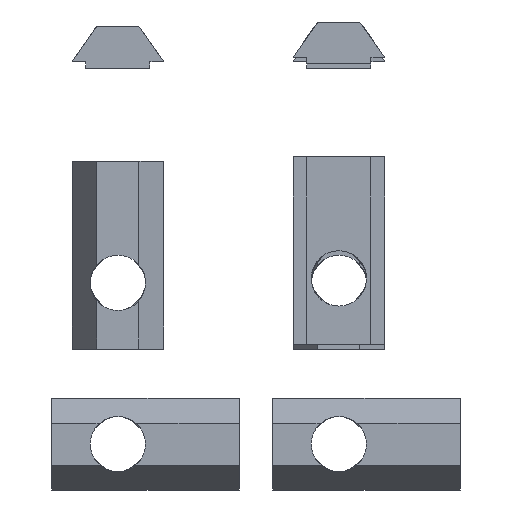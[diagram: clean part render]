
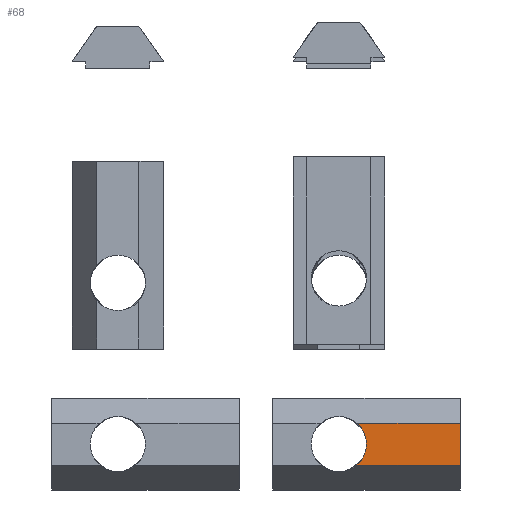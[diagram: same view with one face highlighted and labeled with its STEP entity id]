
A CAD part, front view. The second image highlights one B-rep face of the part: STEP entity #68.
In plain terms, the highlighted planar face has unit normal (0, -1, 0) as drawn and (-1, 0, 0) by its records, which use the part's own axes.
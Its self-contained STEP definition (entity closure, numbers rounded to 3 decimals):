
#68=ADVANCED_FACE('',(#81),#520,.T.);
#81=FACE_OUTER_BOUND('',#95,.T.);
#95=EDGE_LOOP('',(#158,#159,#160,#161,#162));
#158=ORIENTED_EDGE('',*,*,#389,.F.);
#159=ORIENTED_EDGE('',*,*,#362,.F.);
#160=ORIENTED_EDGE('',*,*,#388,.F.);
#161=ORIENTED_EDGE('',*,*,#368,.F.);
#162=ORIENTED_EDGE('',*,*,#392,.T.);
#173=(
BOUNDED_CURVE()
B_SPLINE_CURVE(2,(#1019,#1020,#1021),.UNSPECIFIED.,.F.,.F.)
B_SPLINE_CURVE_WITH_KNOTS((3,3),(-2.162,0.),.UNSPECIFIED.)
CURVE()
GEOMETRIC_REPRESENTATION_ITEM()
RATIONAL_B_SPLINE_CURVE((1.,0.907,1.))
REPRESENTATION_ITEM('')
);
#176=(
BOUNDED_CURVE()
B_SPLINE_CURVE(2,(#1047,#1048,#1049),.UNSPECIFIED.,.F.,.F.)
B_SPLINE_CURVE_WITH_KNOTS((3,3),(13.546,15.708),
 .UNSPECIFIED.)
CURVE()
GEOMETRIC_REPRESENTATION_ITEM()
RATIONAL_B_SPLINE_CURVE((1.,0.907,1.))
REPRESENTATION_ITEM('')
);
#182=PCURVE('',#519,#254);
#189=PCURVE('',#521,#261);
#222=PCURVE('',#527,#294);
#234=PCURVE('',#517,#306);
#238=PCURVE('',#520,#310);
#239=PCURVE('',#520,#311);
#240=PCURVE('',#520,#312);
#241=PCURVE('',#520,#313);
#242=PCURVE('',#520,#314);
#246=PCURVE('',#518,#318);
#254=DEFINITIONAL_REPRESENTATION('',(#404),#1095);
#261=DEFINITIONAL_REPRESENTATION('',(#415),#1095);
#294=DEFINITIONAL_REPRESENTATION('',(#466),#1095);
#306=DEFINITIONAL_REPRESENTATION('',(#478),#1095);
#310=DEFINITIONAL_REPRESENTATION('',(#482),#1095);
#311=DEFINITIONAL_REPRESENTATION('',(#483),#1095);
#312=DEFINITIONAL_REPRESENTATION('',(#484),#1095);
#313=DEFINITIONAL_REPRESENTATION('',(#485),#1095);
#314=DEFINITIONAL_REPRESENTATION('',(#486),#1095);
#318=DEFINITIONAL_REPRESENTATION('',(#490),#1095);
#326=SURFACE_CURVE('',#403,(#182,#239),.PCURVE_S1.);
#332=SURFACE_CURVE('',#414,(#189,#241),.PCURVE_S1.);
#352=SURFACE_CURVE('',#465,(#222,#240),.PCURVE_S1.);
#353=SURFACE_CURVE('',#173,(#234,#238),.PCURVE_S1.);
#356=SURFACE_CURVE('',#176,(#242,#246),.PCURVE_S1.);
#362=EDGE_CURVE('',#494,#509,#326,.T.);
#368=EDGE_CURVE('',#513,#497,#332,.T.);
#388=EDGE_CURVE('',#497,#494,#352,.T.);
#389=EDGE_CURVE('',#509,#511,#353,.T.);
#392=EDGE_CURVE('',#513,#511,#356,.T.);
#403=B_SPLINE_CURVE_WITH_KNOTS('',1,(#750,#751),.UNSPECIFIED.,.F.,.F.,(2,
2),(0.,9.386),.UNSPECIFIED.);
#404=B_SPLINE_CURVE_WITH_KNOTS('',1,(#752,#753),.UNSPECIFIED.,.F.,.F.,(2,
2),(0.,9.386),.UNSPECIFIED.);
#414=B_SPLINE_CURVE_WITH_KNOTS('',1,(#818,#819),.UNSPECIFIED.,.F.,.F.,(2,
2),(-9.386,0.),.UNSPECIFIED.);
#415=B_SPLINE_CURVE_WITH_KNOTS('',1,(#820,#821),.UNSPECIFIED.,.F.,.F.,(2,
2),(-9.386,0.),.UNSPECIFIED.);
#465=B_SPLINE_CURVE_WITH_KNOTS('',1,(#976,#977),.UNSPECIFIED.,.F.,.F.,(2,
2),(-3.819,0.),.UNSPECIFIED.);
#466=B_SPLINE_CURVE_WITH_KNOTS('',1,(#978,#979),.UNSPECIFIED.,.F.,.F.,(2,
2),(-3.819,0.),.UNSPECIFIED.);
#478=B_SPLINE_CURVE_WITH_KNOTS('',1,(#1022,#1023),.UNSPECIFIED.,.F.,.F.,
(2,2),(-2.162,0.),.UNSPECIFIED.);
#482=B_SPLINE_CURVE_WITH_KNOTS('',3,(#1034,#1035,#1036,#1037,#1038,#1039,
#1040),.UNSPECIFIED.,.F.,.F.,(4,3,4),(-2.162,-1.201,
0.),.UNSPECIFIED.);
#483=B_SPLINE_CURVE_WITH_KNOTS('',1,(#1041,#1042),.UNSPECIFIED.,.F.,.F.,
(2,2),(0.,9.386),.UNSPECIFIED.);
#484=B_SPLINE_CURVE_WITH_KNOTS('',1,(#1043,#1044),.UNSPECIFIED.,.F.,.F.,
(2,2),(-3.819,0.),.UNSPECIFIED.);
#485=B_SPLINE_CURVE_WITH_KNOTS('',1,(#1045,#1046),.UNSPECIFIED.,.F.,.F.,
(2,2),(-9.386,0.),.UNSPECIFIED.);
#486=B_SPLINE_CURVE_WITH_KNOTS('',3,(#1050,#1051,#1052,#1053,#1054,#1055,
#1056),.UNSPECIFIED.,.F.,.F.,(4,3,4),(13.546,14.507,
15.708),.UNSPECIFIED.);
#490=B_SPLINE_CURVE_WITH_KNOTS('',1,(#1063,#1064),.UNSPECIFIED.,.F.,.F.,
(2,2),(13.546,15.708),.UNSPECIFIED.);
#494=VERTEX_POINT('',#677);
#497=VERTEX_POINT('',#680);
#509=VERTEX_POINT('',#692);
#511=VERTEX_POINT('',#694);
#513=VERTEX_POINT('',#696);
#517=(
BOUNDED_SURFACE()
B_SPLINE_SURFACE(1,2,((#638,#639,#640,#641,#642,#643,#644,#645,#646),(#647,
#648,#649,#650,#651,#652,#653,#654,#655)),.UNSPECIFIED.,.F.,.F.,.F.)
B_SPLINE_SURFACE_WITH_KNOTS((2,2),(3,2,2,2,3),(0.,17.),(0.,3.927,
7.854,11.781,15.708),.UNSPECIFIED.)
GEOMETRIC_REPRESENTATION_ITEM()
RATIONAL_B_SPLINE_SURFACE(((1.,0.707,1.,0.707,1.,
0.707,1.,0.707,1.),(1.,0.707,1.,0.707,
1.,0.707,1.,0.707,1.)))
REPRESENTATION_ITEM('')
SURFACE()
);
#518=(
BOUNDED_SURFACE()
B_SPLINE_SURFACE(1,2,((#656,#657,#658,#659,#660,#661,#662,#663,#664),(#665,
#666,#667,#668,#669,#670,#671,#672,#673)),.UNSPECIFIED.,.F.,.F.,.F.)
B_SPLINE_SURFACE_WITH_KNOTS((2,2),(3,2,2,2,3),(0.,17.),(0.,3.927,
7.854,11.781,15.708),.UNSPECIFIED.)
GEOMETRIC_REPRESENTATION_ITEM()
RATIONAL_B_SPLINE_SURFACE(((1.,0.707,1.,0.707,1.,
0.707,1.,0.707,1.),(1.,0.707,1.,0.707,
1.,0.707,1.,0.707,1.)))
REPRESENTATION_ITEM('')
SURFACE()
);
#519=PLANE('',#577);
#520=PLANE('',#578);
#521=PLANE('',#579);
#527=PLANE('',#585);
#577=AXIS2_PLACEMENT_3D('',#630,#600,$);
#578=AXIS2_PLACEMENT_3D('',#631,#601,$);
#579=AXIS2_PLACEMENT_3D('',#632,#602,$);
#585=AXIS2_PLACEMENT_3D('',#674,#608,$);
#600=DIRECTION('',(-0.574,0.,-0.819));
#601=DIRECTION('',(-1.,0.,0.));
#602=DIRECTION('',(-0.574,0.,0.819));
#608=DIRECTION('',(0.,-1.,0.));
#630=CARTESIAN_POINT('',(-0.6,-11.,-4.15));
#631=CARTESIAN_POINT('',(-3.8,-11.,-1.909));
#632=CARTESIAN_POINT('',(-3.8,-11.,1.909));
#638=CARTESIAN_POINT('',(-9.6,-2.5,0.));
#639=CARTESIAN_POINT('',(-9.6,-2.5,-2.5));
#640=CARTESIAN_POINT('',(-9.6,0.,-2.5));
#641=CARTESIAN_POINT('',(-9.6,2.5,-2.5));
#642=CARTESIAN_POINT('',(-9.6,2.5,0.));
#643=CARTESIAN_POINT('',(-9.6,2.5,2.5));
#644=CARTESIAN_POINT('',(-9.6,0.,2.5));
#645=CARTESIAN_POINT('',(-9.6,-2.5,2.5));
#646=CARTESIAN_POINT('',(-9.6,-2.5,0.));
#647=CARTESIAN_POINT('',(7.4,-2.5,0.));
#648=CARTESIAN_POINT('',(7.4,-2.5,-2.5));
#649=CARTESIAN_POINT('',(7.4,0.,-2.5));
#650=CARTESIAN_POINT('',(7.4,2.5,-2.5));
#651=CARTESIAN_POINT('',(7.4,2.5,0.));
#652=CARTESIAN_POINT('',(7.4,2.5,2.5));
#653=CARTESIAN_POINT('',(7.4,0.,2.5));
#654=CARTESIAN_POINT('',(7.4,-2.5,2.5));
#655=CARTESIAN_POINT('',(7.4,-2.5,0.));
#656=CARTESIAN_POINT('',(-9.6,-2.5,0.));
#657=CARTESIAN_POINT('',(-9.6,-2.5,-2.5));
#658=CARTESIAN_POINT('',(-9.6,0.,-2.5));
#659=CARTESIAN_POINT('',(-9.6,2.5,-2.5));
#660=CARTESIAN_POINT('',(-9.6,2.5,0.));
#661=CARTESIAN_POINT('',(-9.6,2.5,2.5));
#662=CARTESIAN_POINT('',(-9.6,0.,2.5));
#663=CARTESIAN_POINT('',(-9.6,-2.5,2.5));
#664=CARTESIAN_POINT('',(-9.6,-2.5,0.));
#665=CARTESIAN_POINT('',(7.4,-2.5,0.));
#666=CARTESIAN_POINT('',(7.4,-2.5,-2.5));
#667=CARTESIAN_POINT('',(7.4,0.,-2.5));
#668=CARTESIAN_POINT('',(7.4,2.5,-2.5));
#669=CARTESIAN_POINT('',(7.4,2.5,0.));
#670=CARTESIAN_POINT('',(7.4,2.5,2.5));
#671=CARTESIAN_POINT('',(7.4,0.,2.5));
#672=CARTESIAN_POINT('',(7.4,-2.5,2.5));
#673=CARTESIAN_POINT('',(7.4,-2.5,0.));
#674=CARTESIAN_POINT('',(-4.275,-11.,5.188));
#677=CARTESIAN_POINT('',(-3.8,-11.,-1.909));
#680=CARTESIAN_POINT('',(-3.8,-11.,1.909));
#692=CARTESIAN_POINT('',(-3.8,-1.614,-1.909));
#694=CARTESIAN_POINT('',(-3.8,-2.5,0.));
#696=CARTESIAN_POINT('',(-3.8,-1.614,1.909));
#750=CARTESIAN_POINT('',(-3.8,-11.,-1.909));
#751=CARTESIAN_POINT('',(-3.8,-1.614,-1.909));
#752=CARTESIAN_POINT('',(0.,0.));
#753=CARTESIAN_POINT('',(0.,9.386));
#818=CARTESIAN_POINT('',(-3.8,-1.614,1.909));
#819=CARTESIAN_POINT('',(-3.8,-11.,1.909));
#820=CARTESIAN_POINT('',(3.819,9.386));
#821=CARTESIAN_POINT('',(3.819,0.));
#976=CARTESIAN_POINT('',(-3.8,-11.,1.909));
#977=CARTESIAN_POINT('',(-3.8,-11.,-1.909));
#978=CARTESIAN_POINT('',(-6.059,-3.2));
#979=CARTESIAN_POINT('',(-2.241,-3.2));
#1019=CARTESIAN_POINT('',(-3.8,-1.614,-1.909));
#1020=CARTESIAN_POINT('',(-3.8,-2.5,-1.16));
#1021=CARTESIAN_POINT('',(-3.8,-2.5,0.));
#1022=CARTESIAN_POINT('',(5.8,2.162));
#1023=CARTESIAN_POINT('',(5.8,0.));
#1034=CARTESIAN_POINT('',(0.,9.386));
#1035=CARTESIAN_POINT('',(0.27,9.067));
#1036=CARTESIAN_POINT('',(0.581,8.86));
#1037=CARTESIAN_POINT('',(0.857,8.732));
#1038=CARTESIAN_POINT('',(1.202,8.572));
#1039=CARTESIAN_POINT('',(1.563,8.5));
#1040=CARTESIAN_POINT('',(1.909,8.5));
#1041=CARTESIAN_POINT('',(0.,0.));
#1042=CARTESIAN_POINT('',(0.,9.386));
#1043=CARTESIAN_POINT('',(3.819,0.));
#1044=CARTESIAN_POINT('',(0.,0.));
#1045=CARTESIAN_POINT('',(3.819,9.386));
#1046=CARTESIAN_POINT('',(3.819,0.));
#1047=CARTESIAN_POINT('',(-3.8,-1.614,1.909));
#1048=CARTESIAN_POINT('',(-3.8,-2.5,1.16));
#1049=CARTESIAN_POINT('',(-3.8,-2.5,0.));
#1050=CARTESIAN_POINT('',(3.819,9.386));
#1051=CARTESIAN_POINT('',(3.548,9.067));
#1052=CARTESIAN_POINT('',(3.238,8.86));
#1053=CARTESIAN_POINT('',(2.962,8.732));
#1054=CARTESIAN_POINT('',(2.617,8.572));
#1055=CARTESIAN_POINT('',(2.256,8.5));
#1056=CARTESIAN_POINT('',(1.909,8.5));
#1063=CARTESIAN_POINT('',(5.8,13.546));
#1064=CARTESIAN_POINT('',(5.8,15.708));
#1095=(
GEOMETRIC_REPRESENTATION_CONTEXT(2)
PARAMETRIC_REPRESENTATION_CONTEXT()
REPRESENTATION_CONTEXT('pspace','')
);
